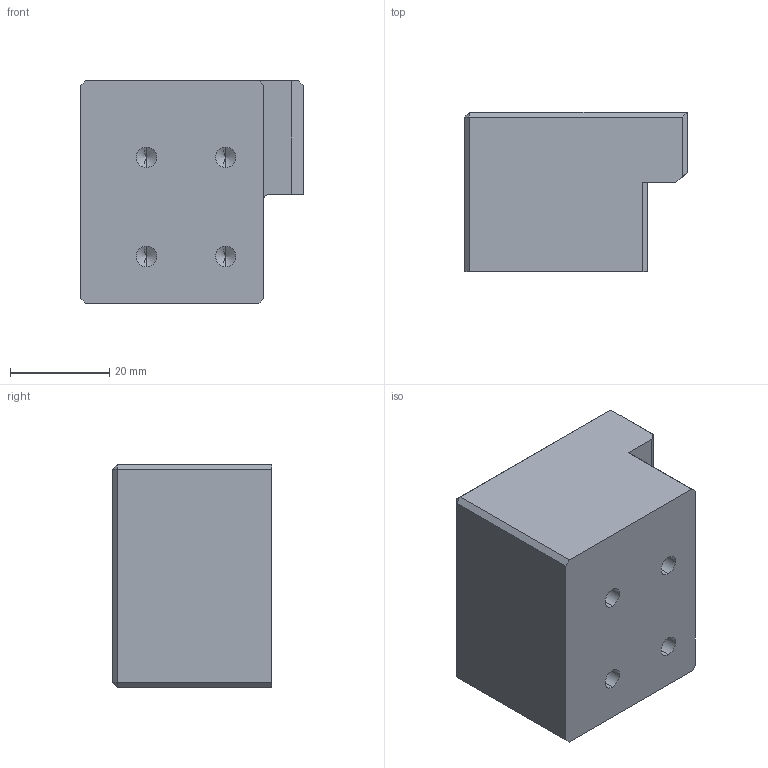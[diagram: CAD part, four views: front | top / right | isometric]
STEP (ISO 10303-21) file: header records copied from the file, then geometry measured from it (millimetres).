
FILE_DESCRIPTION (( 'STEP AP214' ), '1' );
FILE_NAME ('GZ29.13_V1定位块.STEP', '2021-05-08T02:25:41', ( '微软中国' ), ( 'Microsoft' ), 'SwSTEP 2.0', 'SolidWorks 2017', '' );
FILE_SCHEMA (( 'AUTOMOTIVE_DESIGN' ));
Length unit declared in the file: millimetre
Products named in the file (1): GZ29.13_V1隅弇輸
Bounding box: 45 x 32.15 x 45 mm (x, y, z)
Volume: 46304.1 mm3; surface area: 10599.8 mm2
Topology: 1 solids, 1 shells, 95 faces, 226 edges, 129 vertices
Faces by surface type: plane 78, cylinder 9, cone 8
Entity records: 2700 total; most frequent: CARTESIAN_POINT 443, ORIENTED_EDGE 436, DIRECTION 428, EDGE_CURVE 218, LINE 200, VECTOR 200, VERTEX_POINT 129, AXIS2_PLACEMENT_3D 114
